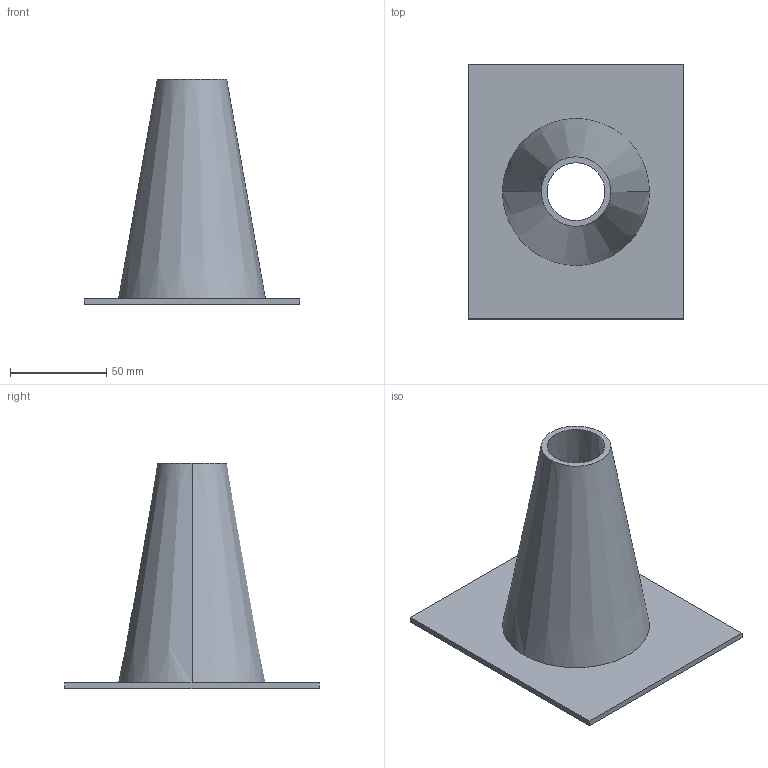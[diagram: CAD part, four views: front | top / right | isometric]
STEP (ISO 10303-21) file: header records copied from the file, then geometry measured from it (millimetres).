
FILE_DESCRIPTION(('CATIA V5 STEP Exchange'),'2;1');
FILE_NAME('C:\_Andres\UNIVERSIDAD\IQS\ASIGNATURAS\DAO\EXF\EXF-15161c\1original\Sala_García_Ej08-ensambla_v22.stp','2016-03-04T21:37:19+00:00',('none'),('none'),'CATIA Version 5 Release 20 SP 1 (IN-10)','CATIA V5 STEP AP203','none');
FILE_SCHEMA(('CONFIG_CONTROL_DESIGN'));
Length unit declared in the file: millimetre
Products named in the file (1): Sala_García_Ej08-ensambla_v22
Bounding box: 112 x 132 x 117 mm (x, y, z)
Volume: 90547.6 mm3; surface area: 62121.1 mm2
Topology: 1 solids, 1 shells, 11 faces, 24 edges, 16 vertices
Faces by surface type: plane 7, cone 4
Entity records: 414 total; most frequent: CARTESIAN_POINT 127, ORIENTED_EDGE 48, DIRECTION 44, EDGE_CURVE 24, AXIS2_PLACEMENT_3D 17, VECTOR 16, LINE 16, VERTEX_POINT 16
